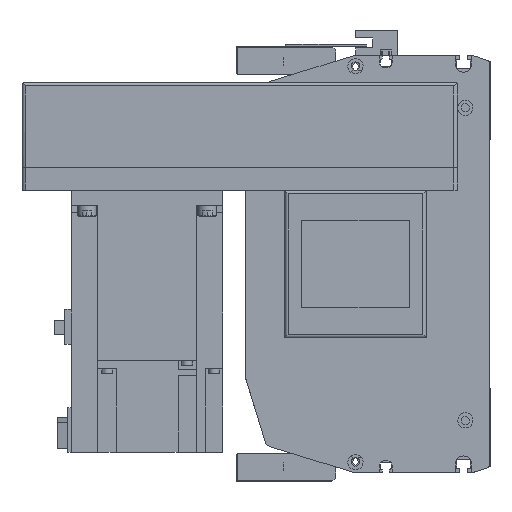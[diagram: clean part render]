
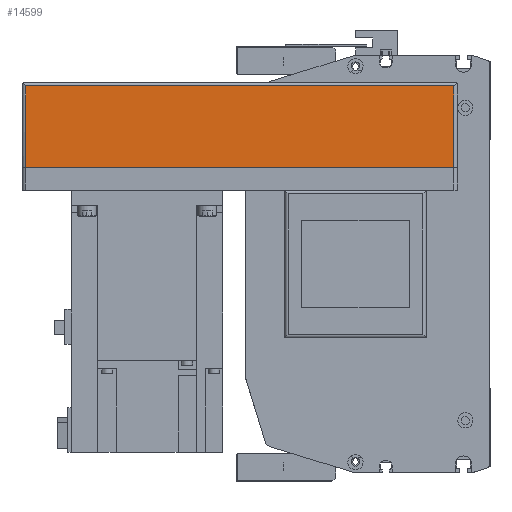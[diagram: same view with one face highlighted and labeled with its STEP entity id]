
A CAD part, left-side view. The second image highlights one B-rep face of the part: STEP entity #14599.
In plain terms, the highlighted planar face has unit normal (-1, 0, 0) as drawn and (0, 1, 0) by its records, which use the part's own axes.
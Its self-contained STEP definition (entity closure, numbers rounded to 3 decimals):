
#2484=ORIENTED_EDGE('',*,*,#5950,.F.);
#2485=ORIENTED_EDGE('',*,*,#5890,.T.);
#2486=ORIENTED_EDGE('',*,*,#5951,.F.);
#2487=ORIENTED_EDGE('',*,*,#5885,.F.);
#5885=EDGE_CURVE('',#7764,#7765,#9274,.T.);
#5890=EDGE_CURVE('',#7770,#7769,#9276,.T.);
#5950=EDGE_CURVE('',#7770,#7764,#9319,.T.);
#5951=EDGE_CURVE('',#7765,#7769,#9320,.T.);
#7764=VERTEX_POINT('',#22716);
#7765=VERTEX_POINT('',#22718);
#7769=VERTEX_POINT('',#22727);
#7770=VERTEX_POINT('',#22729);
#9274=LINE('',#22717,#10621);
#9276=LINE('',#22728,#10623);
#9319=LINE('',#22851,#10666);
#9320=LINE('',#22852,#10667);
#10621=VECTOR('',#18147,1000.);
#10623=VECTOR('',#18157,1000.);
#10666=VECTOR('',#18278,1000.);
#10667=VECTOR('',#18279,1000.);
#11822=EDGE_LOOP('',(#2484,#2485,#2486,#2487));
#12977=FACE_BOUND('',#11822,.T.);
#13970=PLANE('',#15676);
#14599=ADVANCED_FACE('',(#12977),#13970,.T.);
#15676=AXIS2_PLACEMENT_3D('',#22850,#18276,#18277);
#18147=DIRECTION('',(0.,0.,1.));
#18157=DIRECTION('',(0.,0.,1.));
#18276=DIRECTION('',(0.,1.,0.));
#18277=DIRECTION('',(0.,0.,1.));
#18278=DIRECTION('',(1.,0.,0.));
#18279=DIRECTION('',(-1.,0.,0.));
#22716=CARTESIAN_POINT('',(-2.,54.,-55.));
#22717=CARTESIAN_POINT('',(-2.,54.,-57.));
#22718=CARTESIAN_POINT('',(-2.,54.,-12.));
#22727=CARTESIAN_POINT('',(-228.,54.,-12.));
#22728=CARTESIAN_POINT('',(-228.,54.,-57.));
#22729=CARTESIAN_POINT('',(-228.,54.,-55.));
#22850=CARTESIAN_POINT('',(-2.,54.,-57.));
#22851=CARTESIAN_POINT('',(-230.,54.,-55.));
#22852=CARTESIAN_POINT('',(-2.,54.,-12.));
